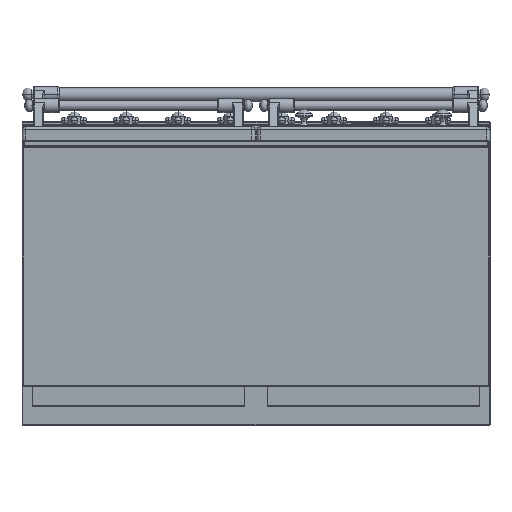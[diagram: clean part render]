
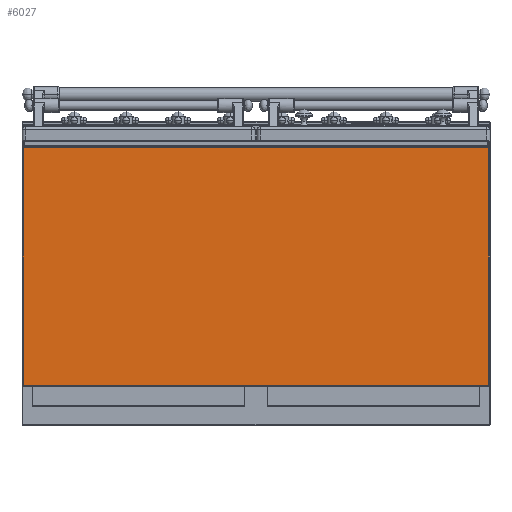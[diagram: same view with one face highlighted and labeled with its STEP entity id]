
A CAD part, front view. The second image highlights one B-rep face of the part: STEP entity #6027.
In plain terms, the highlighted planar face has unit normal (0, -1, 0).
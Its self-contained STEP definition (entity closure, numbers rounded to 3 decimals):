
#5644=DIRECTION('',(0.,0.,-1.));
#5645=VECTOR('',#5644,508.);
#5646=CARTESIAN_POINT('',(497.,0.,254.));
#5647=LINE('',#5646,#5645);
#5648=DIRECTION('',(-1.,0.,0.));
#5649=VECTOR('',#5648,994.);
#5650=CARTESIAN_POINT('',(497.,0.,-254.));
#5651=LINE('',#5650,#5649);
#5652=DIRECTION('',(0.,0.,1.));
#5653=VECTOR('',#5652,508.);
#5654=CARTESIAN_POINT('',(-497.,0.,-254.));
#5655=LINE('',#5654,#5653);
#5656=DIRECTION('',(-1.,0.,0.));
#5657=VECTOR('',#5656,994.);
#5658=CARTESIAN_POINT('',(497.,0.,254.));
#5659=LINE('',#5658,#5657);
#5764=CARTESIAN_POINT('',(497.,0.,254.));
#5765=CARTESIAN_POINT('',(497.,0.,-254.));
#5766=VERTEX_POINT('',#5764);
#5767=VERTEX_POINT('',#5765);
#5770=CARTESIAN_POINT('',(-497.,0.,254.));
#5771=VERTEX_POINT('',#5770);
#5778=CARTESIAN_POINT('',(-497.,0.,-254.));
#5779=VERTEX_POINT('',#5778);
#6014=CARTESIAN_POINT('',(-499.,0.,256.));
#6015=DIRECTION('',(0.,-1.,0.));
#6016=DIRECTION('',(0.,0.,-1.));
#6017=AXIS2_PLACEMENT_3D('',#6014,#6015,#6016);
#6018=PLANE('',#6017);
#6019=ORIENTED_EDGE('',*,*,#6004,.T.);
#6021=ORIENTED_EDGE('',*,*,#6020,.T.);
#6022=ORIENTED_EDGE('',*,*,#5807,.T.);
#6024=ORIENTED_EDGE('',*,*,#6023,.F.);
#6025=EDGE_LOOP('',(#6019,#6021,#6022,#6024));
#6026=FACE_OUTER_BOUND('',#6025,.F.);
#5807=EDGE_CURVE('',#5779,#5771,#5655,.T.);
#6004=EDGE_CURVE('',#5766,#5767,#5647,.T.);
#6020=EDGE_CURVE('',#5767,#5779,#5651,.T.);
#6023=EDGE_CURVE('',#5766,#5771,#5659,.T.);
#6027=ADVANCED_FACE('',(#6026),#6018,.T.);
